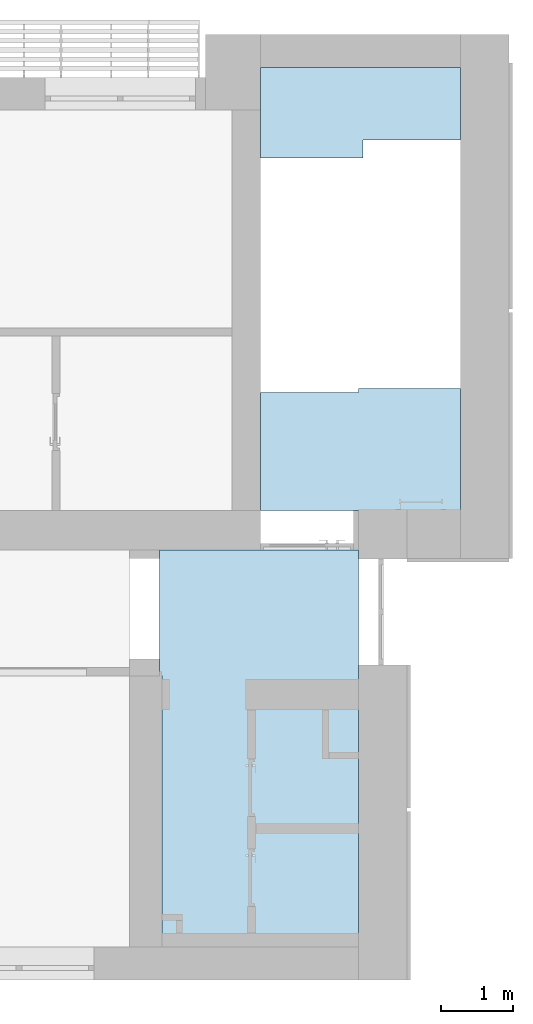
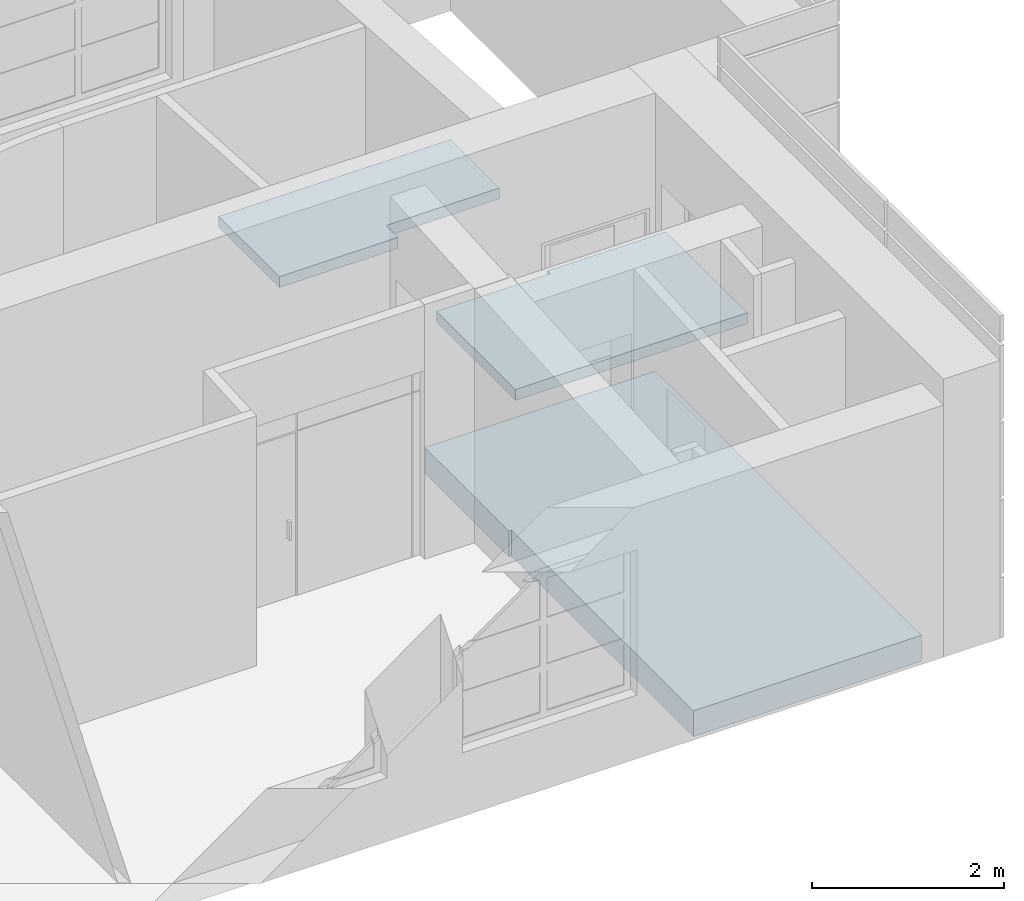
# One storey, part 18 of 46: 3 slabs.
"""IFC2X3 building model written with IfcOpenShell, lengths in millimetres."""

from ifc_helpers import new_model, entity, si_unit, converted_unit, derived_unit, direction, frame, origin, place, context, subcontext, project, spatial, polyline, outline, extrude, material, layer, layer_set, layer_usage, element, save


model = new_model("IFC2X3")

# Units and contexts
model_context = context("Model", 3, precision=0.01, world=origin(), true_north=direction((6.12303176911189e-17, 1.0)))
body_context = subcontext(model_context, "Body", "Model", "MODEL_VIEW")
ifc_project = project(units=[si_unit("LENGTHUNIT", "METRE", prefix="MILLI"), si_unit("AREAUNIT", "SQUARE_METRE"), si_unit("VOLUMEUNIT", "CUBIC_METRE"), converted_unit("PLANEANGLEUNIT", "DEGREE", entity("IfcRatioMeasure", 0.0174532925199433), si_unit("PLANEANGLEUNIT", "RADIAN"), dimensions=[0, 0, 0, 0, 0, 0, 0]), si_unit("MASSUNIT", "GRAM", prefix="KILO"), derived_unit("MASSDENSITYUNIT", [(si_unit("MASSUNIT", "GRAM", prefix="KILO"), 1), (si_unit("LENGTHUNIT", "METRE"), -3)]), si_unit("TIMEUNIT", "SECOND"), si_unit("FREQUENCYUNIT", "HERTZ"), si_unit("THERMODYNAMICTEMPERATUREUNIT", "DEGREE_CELSIUS"), derived_unit("THERMALTRANSMITTANCEUNIT", [(si_unit("MASSUNIT", "GRAM", prefix="KILO"), 1), (si_unit("THERMODYNAMICTEMPERATUREUNIT", "KELVIN"), -1), (si_unit("TIMEUNIT", "SECOND"), -3)]), derived_unit("VOLUMETRICFLOWRATEUNIT", [(si_unit("LENGTHUNIT", "METRE"), 3), (si_unit("TIMEUNIT", "SECOND"), -1)]), si_unit("ELECTRICCURRENTUNIT", "AMPERE"), si_unit("ELECTRICVOLTAGEUNIT", "VOLT"), si_unit("POWERUNIT", "WATT"), si_unit("FORCEUNIT", "NEWTON", prefix="KILO"), si_unit("ILLUMINANCEUNIT", "LUX"), si_unit("LUMINOUSFLUXUNIT", "LUMEN"), si_unit("LUMINOUSINTENSITYUNIT", "CANDELA"), derived_unit("USERDEFINED", [(si_unit("MASSUNIT", "GRAM", prefix="KILO"), -1), (si_unit("LENGTHUNIT", "METRE"), -2), (si_unit("TIMEUNIT", "SECOND"), 3), (si_unit("LUMINOUSFLUXUNIT", "LUMEN"), 1)]), derived_unit("LINEARVELOCITYUNIT", [(si_unit("LENGTHUNIT", "METRE"), 1), (si_unit("TIMEUNIT", "SECOND"), -1)]), si_unit("PRESSUREUNIT", "PASCAL"), derived_unit("USERDEFINED", [(si_unit("LENGTHUNIT", "METRE"), -2), (si_unit("MASSUNIT", "GRAM", prefix="KILO"), 1), (si_unit("TIMEUNIT", "SECOND"), -2)])], contexts=[model_context])

# Site, building, storey
site_placement = place(None, frame((-151.875543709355, 2715.0, 0.0)))
site = spatial("IfcSite", under=ifc_project, at=site_placement, Name="Surface", CompositionType="ELEMENT")
building_placement = place(site_placement, origin())
building = spatial("IfcBuilding", under=site, at=building_placement, CompositionType="ELEMENT")
storey_placement = place(building_placement, frame((0.0, 0.0, 10060.0)))
storey = spatial("IfcBuildingStorey", under=building, at=storey_placement, Name="4 korrus", CompositionType="ELEMENT", Elevation=10060.0000000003)

# Slabs
ifc_material_1 = material(Name="Viimistlus")
ifc_layer_1 = layer(ifc_material_1, 20.0)
ifc_material_2 = material(Name="Betoon")
ifc_layer_2 = layer(ifc_material_2, 30.0)
ifc_material_3 = material(Name="Helisummutusvill")
ifc_layer_3 = layer(ifc_material_3, 30.0)
ifc_material_4 = material(Name="__Kergkruus")
ifc_layer_4 = layer(ifc_material_4, 30.0)
ifc_material_5 = material(Name="Betoon paneel")
ifc_layer_5 = layer(ifc_material_5, 220.0)
ifc_layer_set_1 = layer_set([ifc_layer_1, ifc_layer_2, ifc_layer_3, ifc_layer_4, ifc_layer_5], Name="Floor:VL-1_vahelagi olemasolevas hoones")
ifc_layer_usage_1 = layer_usage(ifc_layer_set_1, "AXIS3", "POSITIVE", 0.0)
slab_1_placement = place(storey_placement, origin())
element("IfcSlab", 1, at=slab_1_placement, inside=storey, material=ifc_layer_usage_1, Name="Floor:VL-1_vahelagi olemasolevas hoones", ObjectType="Floor:VL-1_vahelagi olemasolevas hoones", PredefinedType="FLOOR", context=body_context, shape_type="SweptSolid", body=[
    extrude(outline(polyline([(679.260388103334, -935.866369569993), (2435.41748966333, -935.866369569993), (2435.41748966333, 1841.73273914), (-3114.67787776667, 1841.73273914), (-3114.67787776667, -905.866369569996), (679.260388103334, -905.866369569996), (679.260388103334, -935.866369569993)])), frame((31899.88352897, 3574.58251033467, 0.0), z_axis=(0.0, 0.0, -1.0), x_axis=(0.0, 1.0, 0.0)), (0.0, 0.0, 1.0), 330.0),
])
ifc_material_6 = material(Name="Betoonplaat")
ifc_layer_6 = layer(ifc_material_6, 140.0)
ifc_layer_set_2 = layer_set([ifc_layer_6], Name="Floor:Trepimade2")
ifc_layer_usage_2 = layer_usage(ifc_layer_set_2, "AXIS3", "POSITIVE", 0.0)
slab_2_placement = place(storey_placement, origin())
element("IfcSlab", 2, at=slab_2_placement, inside=storey, material=ifc_layer_usage_2, Name="Floor:Trepimade2", ObjectType="Floor:Trepimade2", PredefinedType="FLOOR", context=body_context, shape_type="SweptSolid", body=[
    extrude(outline(polyline([(-506.362340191, -1407.66666666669), (762.135126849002, -1407.66666666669), (762.135126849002, 1386.33333333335), (-255.772786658, 1386.33333333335), (-255.772786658, 21.3333333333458), (-506.362340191, 21.3333333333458), (-506.362340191, -1407.66666666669)])), frame((33780.2829348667, 11987.864873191, -1638.13119888), z_axis=(0.0, 0.0, -1.0), x_axis=(0.0, 1.0, 0.0)), (0.0, 0.0, 1.0), 140.0),
])
ifc_layer_usage_3 = layer_usage(ifc_layer_set_2, "AXIS3", "POSITIVE", 0.0)
slab_3_placement = place(storey_placement, origin())
element("IfcSlab", 3, at=slab_3_placement, inside=storey, material=ifc_layer_usage_3, Name="Floor:Trepimade2", ObjectType="Floor:Trepimade2", PredefinedType="FLOOR", context=body_context, shape_type="SweptSolid", body=[
    extrude(outline(polyline([(-1115.90016902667, -1387.66666666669), (529.90201829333, -1387.66666666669), (529.902018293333, -18.6666666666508), (585.998150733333, -18.666666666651), (585.998150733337, 1406.33333333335), (-1115.90016902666, 1406.33333333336), (-1115.90016902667, -1387.66666666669)])), frame((33760.2829348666, 7675.90016902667, -90.8823585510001), z_axis=(0.0, 0.0, -1.0), x_axis=(0.0, 1.0, 0.0)), (0.0, 0.0, 1.0), 140.000000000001),
])

save(model, "model.ifc")
